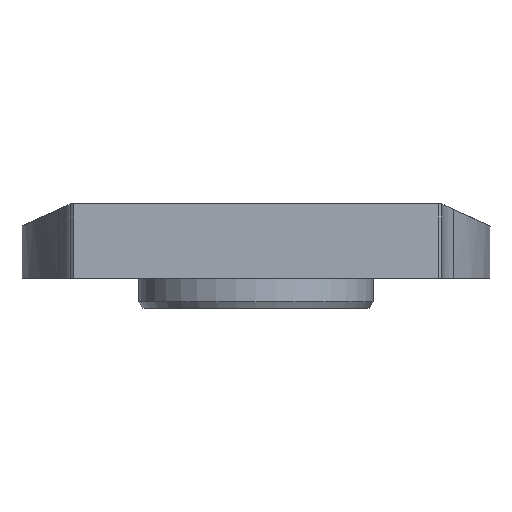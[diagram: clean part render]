
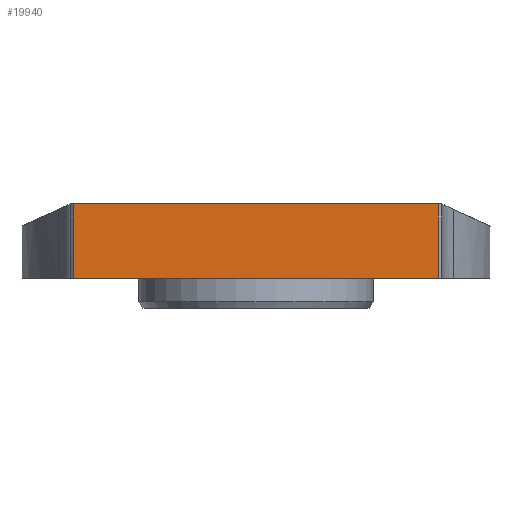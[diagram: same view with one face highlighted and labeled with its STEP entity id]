
A CAD part, left-side view. The second image highlights one B-rep face of the part: STEP entity #19940.
In plain terms, the highlighted planar face has unit normal (-1, 0, 0).
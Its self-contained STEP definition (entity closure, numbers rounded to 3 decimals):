
#942=CARTESIAN_POINT('',(-52.,24.5,0.0));
#943=VERTEX_POINT('',#942);
#950=CARTESIAN_POINT('',(-52.,-24.5,0.0));
#951=VERTEX_POINT('',#950);
#952=CARTESIAN_POINT('',(-52.,24.5,0.0));
#953=DIRECTION('',(0.0,-1.0,0.0));
#954=VECTOR('',#953,49.0);
#955=LINE('',#952,#954);
#956=EDGE_CURVE('',#943,#951,#955,.T.);
#19672=CARTESIAN_POINT('',(-52.,-24.5,-10.0));
#19673=VERTEX_POINT('',#19672);
#19680=CARTESIAN_POINT('',(-52.,24.5,-10.0));
#19681=VERTEX_POINT('',#19680);
#19682=CARTESIAN_POINT('',(-52.,24.5,-10.0));
#19683=DIRECTION('',(0.0,-1.0,0.0));
#19684=VECTOR('',#19683,49.0);
#19685=LINE('',#19682,#19684);
#19686=EDGE_CURVE('',#19681,#19673,#19685,.T.);
#19908=CARTESIAN_POINT('',(-52.,24.5,-10.0));
#19909=DIRECTION('',(0.0,0.0,1.0));
#19910=VECTOR('',#19909,10.0);
#19911=LINE('',#19908,#19910);
#19912=EDGE_CURVE('',#19681,#943,#19911,.T.);
#19924=CARTESIAN_POINT('',(-52.,25.0,0.0));
#19925=DIRECTION('',(-1.0,0.0,0.0));
#19926=DIRECTION('',(0.0,0.0,1.0));
#19927=AXIS2_PLACEMENT_3D('',#19924,#19925,#19926);
#19928=PLANE('',#19927);
#19929=ORIENTED_EDGE('',*,*,#19912,.F.);
#19930=ORIENTED_EDGE('',*,*,#19686,.T.);
#19931=CARTESIAN_POINT('',(-52.,-24.5,0.0));
#19932=DIRECTION('',(0.0,0.0,-1.0));
#19933=VECTOR('',#19932,10.0);
#19934=LINE('',#19931,#19933);
#19935=EDGE_CURVE('',#951,#19673,#19934,.T.);
#19936=ORIENTED_EDGE('',*,*,#19935,.F.);
#19937=ORIENTED_EDGE('',*,*,#956,.F.);
#19938=EDGE_LOOP('',(#19929,#19930,#19936,#19937));
#19939=FACE_OUTER_BOUND('',#19938,.T.);
#19940=ADVANCED_FACE('',(#19939),#19928,.T.);
